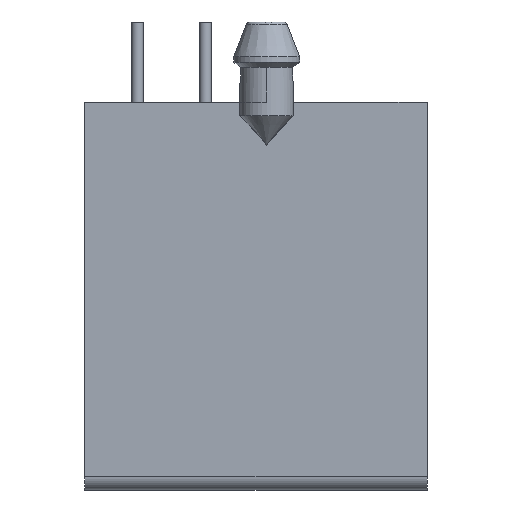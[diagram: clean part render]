
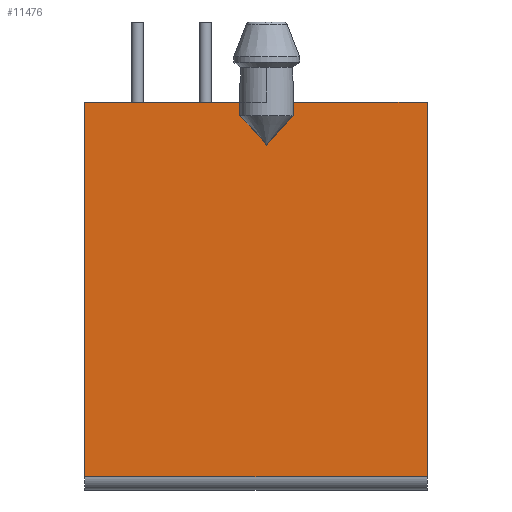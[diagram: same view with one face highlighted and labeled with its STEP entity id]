
A CAD part, left-side view. The second image highlights one B-rep face of the part: STEP entity #11476.
In plain terms, the highlighted planar face has unit normal (-1, 0, 0).
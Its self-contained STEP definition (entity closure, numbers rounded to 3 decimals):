
#5797=DIRECTION('',(0.,0.,-1.));
#5798=VECTOR('',#5797,0.5);
#5799=CARTESIAN_POINT('',(-7.5,-1.425,7.25));
#5800=LINE('',#5799,#5798);
#5801=DIRECTION('',(0.,0.,1.));
#5802=VECTOR('',#5801,0.5);
#5803=CARTESIAN_POINT('',(-7.5,0.575,6.75));
#5804=LINE('',#5803,#5802);
#5905=DIRECTION('',(0.,0.,-1.));
#5906=VECTOR('',#5905,14.);
#5907=CARTESIAN_POINT('',(-7.5,-6.425,7.25));
#5908=LINE('',#5907,#5906);
#5909=DIRECTION('',(0.,0.,1.));
#5910=VECTOR('',#5909,14.);
#5911=CARTESIAN_POINT('',(-7.5,6.375,-6.75));
#5912=LINE('',#5911,#5910);
#5913=DIRECTION('',(0.,-1.,0.));
#5914=VECTOR('',#5913,5.8);
#5915=CARTESIAN_POINT('',(-7.5,6.375,7.25));
#5916=LINE('',#5915,#5914);
#5917=DIRECTION('',(0.,-0.673,-0.74));
#5918=VECTOR('',#5917,1.487);
#5919=CARTESIAN_POINT('',(-7.5,0.575,6.75));
#5920=LINE('',#5919,#5918);
#5921=DIRECTION('',(0.,-0.673,0.74));
#5922=VECTOR('',#5921,1.487);
#5923=CARTESIAN_POINT('',(-7.5,-0.425,5.65));
#5924=LINE('',#5923,#5922);
#5938=DIRECTION('',(0.,-1.,0.));
#5939=VECTOR('',#5938,5.);
#5940=CARTESIAN_POINT('',(-7.5,-1.425,7.25));
#5941=LINE('',#5940,#5939);
#5942=DIRECTION('',(0.,-1.,0.));
#5943=VECTOR('',#5942,12.8);
#5944=CARTESIAN_POINT('',(-7.5,6.375,-6.75));
#5945=LINE('',#5944,#5943);
#6994=CARTESIAN_POINT('',(-7.5,6.375,7.25));
#6995=VERTEX_POINT('',#6994);
#6996=CARTESIAN_POINT('',(-7.5,6.375,-6.75));
#6997=VERTEX_POINT('',#6996);
#7211=CARTESIAN_POINT('',(-7.5,-6.425,7.25));
#7212=VERTEX_POINT('',#7211);
#7213=CARTESIAN_POINT('',(-7.5,-6.425,-6.75));
#7214=VERTEX_POINT('',#7213);
#7530=CARTESIAN_POINT('',(-7.5,-1.425,7.25));
#7531=VERTEX_POINT('',#7530);
#7532=CARTESIAN_POINT('',(-7.5,-1.425,6.75));
#7533=VERTEX_POINT('',#7532);
#7536=CARTESIAN_POINT('',(-7.5,0.575,6.75));
#7537=VERTEX_POINT('',#7536);
#7538=CARTESIAN_POINT('',(-7.5,0.575,7.25));
#7539=VERTEX_POINT('',#7538);
#7564=CARTESIAN_POINT('',(-7.5,-0.425,5.65));
#7565=VERTEX_POINT('',#7564);
#11456=CARTESIAN_POINT('',(-7.5,-0.025,0.25));
#11457=DIRECTION('',(1.,0.,0.));
#11458=DIRECTION('',(0.,-1.,0.));
#11459=AXIS2_PLACEMENT_3D('',#11456,#11457,#11458);
#11460=PLANE('',#11459);
#11461=ORIENTED_EDGE('',*,*,#11353,.F.);
#11463=ORIENTED_EDGE('',*,*,#11462,.T.);
#11464=ORIENTED_EDGE('',*,*,#10506,.T.);
#11466=ORIENTED_EDGE('',*,*,#11465,.F.);
#11467=ORIENTED_EDGE('',*,*,#10040,.T.);
#11468=ORIENTED_EDGE('',*,*,#11449,.T.);
#11469=ORIENTED_EDGE('',*,*,#11359,.F.);
#11471=ORIENTED_EDGE('',*,*,#11470,.T.);
#11473=ORIENTED_EDGE('',*,*,#11472,.T.);
#11474=EDGE_LOOP('',(#11461,#11463,#11464,#11466,#11467,#11468,#11469,#11471,
#11473));
#11475=FACE_OUTER_BOUND('',#11474,.F.);
#11476=ADVANCED_FACE('',(#11475),#11460,.F.);
#10040=EDGE_CURVE('',#6997,#6995,#5912,.T.);
#10506=EDGE_CURVE('',#7212,#7214,#5908,.T.);
#11353=EDGE_CURVE('',#7531,#7533,#5800,.T.);
#11359=EDGE_CURVE('',#7537,#7539,#5804,.T.);
#11449=EDGE_CURVE('',#6995,#7539,#5916,.T.);
#11462=EDGE_CURVE('',#7531,#7212,#5941,.T.);
#11465=EDGE_CURVE('',#6997,#7214,#5945,.T.);
#11470=EDGE_CURVE('',#7537,#7565,#5920,.T.);
#11472=EDGE_CURVE('',#7565,#7533,#5924,.T.);
